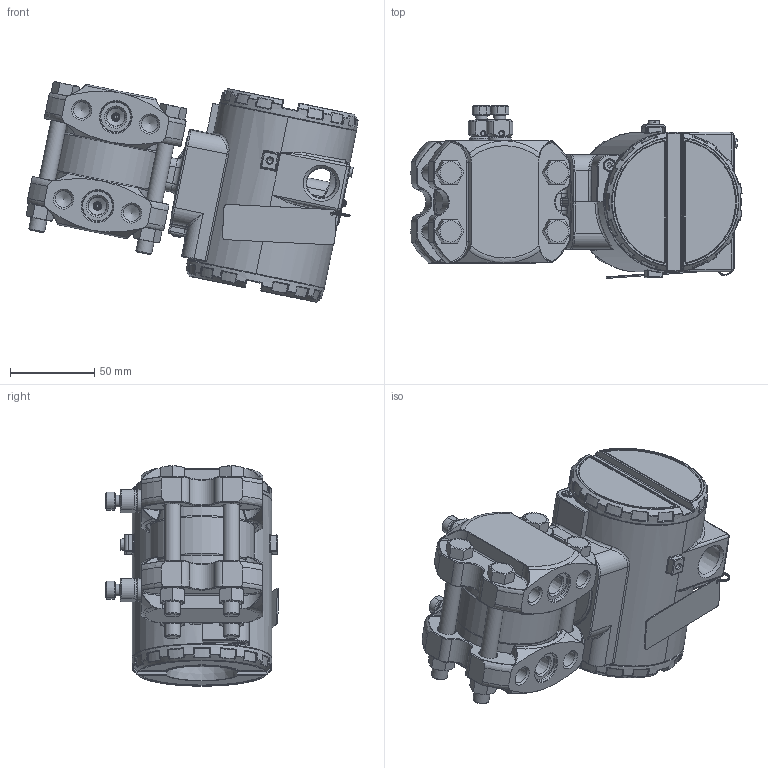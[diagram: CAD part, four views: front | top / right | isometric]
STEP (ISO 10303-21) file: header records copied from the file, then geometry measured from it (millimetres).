
FILE_DESCRIPTION(/* description */ (''),/* implementation_level */ '2;1');
FILE_NAME(/* name */ 'F:\Area\Desenvolvimento_2\Projects\Sensor\projetos\LD30X\montagens 3d - clientes\LD30XD0-3 1-4NPT Monel purga oposta.stp',/* time_stamp */ '2023-01-27T08:51:04-03:00',/* author */ ('inventor02'),/* organization */ (''),/* preprocessor_version */ 'ST-DEVELOPER v17',/* originating_system */ 'Autodesk Inventor 2019',/* authorisation */ '');
FILE_SCHEMA (('CONFIG_CONTROL_DESIGN'));
Products named in the file (29): LD30XD0-3 1-4NPT Monel purga oposta; diferencial FX0-3 monel purga oposta; involucro fx0-3 apos a usinagem final; 101-C-0040-05 monel barra 7-16; Paraf. 3-8 x 16 UNC; Porca 3-8 x 16 UNC; 075-B-0046-purgador; Sangria; carcaça vazia com tampas e plaqueta; carcaça LD inox sem letras; Subconjunto plaqueta 300; Plaqueta transmissor; Parafuso da Plaqueta; Rebite da Plaqueta; 096-A-0169-03; 101-A-0502-01; Chapa aterramento externo; ISO 1207 - M4 x 8; DIN 915 - M6 x 10; ANSI B18.3.1M - M4x0,7 x 8; Subconjunto tampa com visor aluminio; tampa pintada; VIDRO DO VISOR; oring 41x1 vidro tampa; Trava do vidro da tampa com visor; trava do vidro VH256; Subconjunto tampa sem visor-aluminio; tampa cega 300 pintada p0; 00034775-0
Assembly tree (39 placements, depth 4):
  LD30XD0-3 1-4NPT Monel purga oposta
    diferencial FX0-3 monel purga oposta
      involucro fx0-3 apos a usinagem final
      101-C-0040-05 monel barra 7-16  x2
      Paraf. 3-8 x 16 UNC  x4
      Porca 3-8 x 16 UNC  x4
      075-B-0046-purgador  x2
      Sangria  x2
    carcaça vazia com tampas e plaqueta
      carcaça LD inox sem letras
      Subconjunto plaqueta 300
        Plaqueta transmissor
        Parafuso da Plaqueta
        Rebite da Plaqueta
        096-A-0169-03
        101-A-0502-01
      Chapa aterramento externo
      ISO 1207 - M4 x 8
      DIN 915 - M6 x 10
      ANSI B18.3.1M - M4x0,7 x 8  x2
      Subconjunto tampa com visor aluminio
        tampa pintada
        VIDRO DO VISOR
        oring 41x1 vidro tampa
        Trava do vidro da tampa com visor
        trava do vidro VH256
        00034775-0
      Subconjunto tampa sem visor-aluminio
        tampa cega 300 pintada p0
        00034775-0
Bounding box: 197.48 x 102.6 x 131.04 mm (x, y, z)
Volume: 637403.9 mm3; surface area: 236420.6 mm2
Topology: 34 solids, 34 shells, 2260 faces, 5497 edges, 3273 vertices
Faces by surface type: bspline 589, cylinder 499, plane 446, torus 350, cone 273, sphere 103
Full cylindrical faces by diameter (mm): 2 x2, 2.1 x2, 2.459 x5, 2.642 x1, 2.7 x1, 3 x5, 3.242 x4, 3.5 x4, 3.571 x1, 4 x4, 4.3 x1, 4.4 x1, 4.917 x1, 5 x4, 5.5 x2, 6 x2, 6.8 x2, 7 x6, 7.087 x2, 7.6 x2, 7.798 x4, 8 x2, 8.7 x2, 9.525 x4, 9.728 x8, 10.5 x8, 10.719 x4, 12 x2, 13.8 x2, 14 x1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
Entity records: 71462 total; most frequent: CARTESIAN_POINT 28004, ORIENTED_EDGE 9104, DIRECTION 8662, EDGE_CURVE 4552, AXIS2_PLACEMENT_3D 3806, VERTEX_POINT 2722, CIRCLE 2248, EDGE_LOOP 2016
